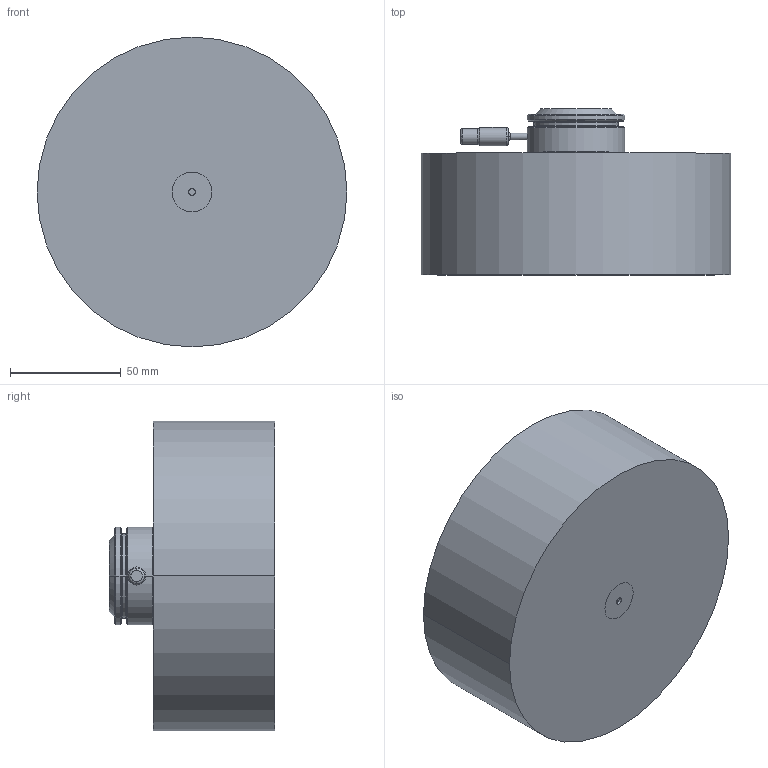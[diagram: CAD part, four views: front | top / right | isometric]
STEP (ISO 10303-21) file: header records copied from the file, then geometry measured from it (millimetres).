
FILE_DESCRIPTION((''),'2;1');
FILE_NAME('M44N102.stp','2020-09-19T08:39:08',(''),(''),'AutoCAD STEP 2000i','AutoCAD 2000i',', , ');
FILE_SCHEMA(('CONFIG_CONTROL_DESIGN'));
Length unit declared in the file: millimetre
Products named in the file (3): DRAWING1; NOZZLE M102N44; MOLD BODY M 102 N44
Assembly tree (2 placements, depth 2):
  DRAWING1
    NOZZLE M102N44
    MOLD BODY M 102 N44
Bounding box: 140 x 75 x 140 mm (x, y, z)
Volume: 867360.9 mm3; surface area: 71273.2 mm2
Topology: 2 solids, 2 shells, 103 faces, 235 edges, 147 vertices
Faces by surface type: cylinder 36, cone 32, plane 17, bspline 10, torus 8
Entity records: 3468 total; most frequent: CARTESIAN_POINT 925, DIRECTION 583, ORIENTED_EDGE 466, AXIS2_PLACEMENT_3D 257, EDGE_CURVE 233, CIRCLE 161, VERTEX_POINT 147, EDGE_LOOP 118
